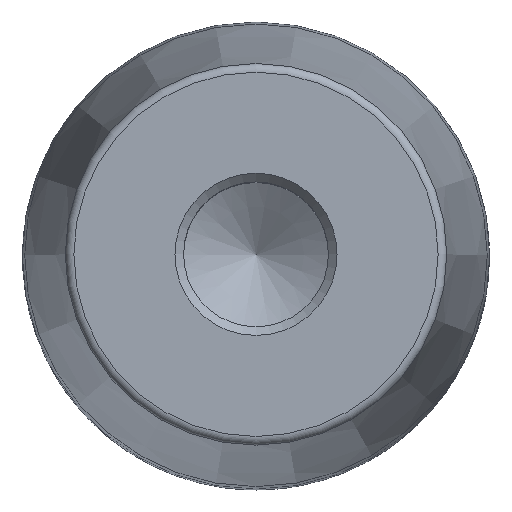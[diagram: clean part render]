
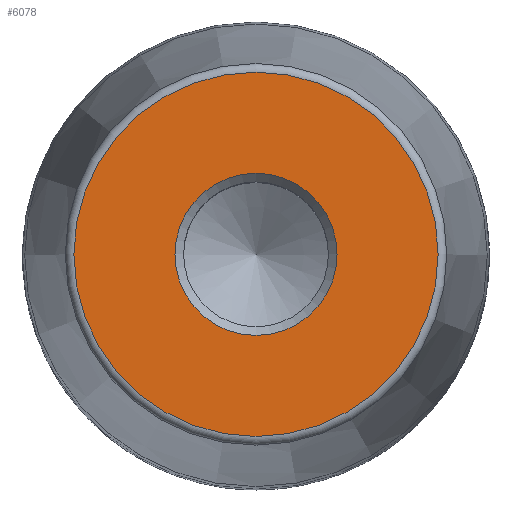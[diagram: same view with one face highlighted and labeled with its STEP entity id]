
A CAD part, top view. The second image highlights one B-rep face of the part: STEP entity #6078.
In plain terms, the highlighted planar face has unit normal (0, 0, 1).
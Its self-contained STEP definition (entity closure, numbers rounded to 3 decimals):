
#1225=PLANE('',#6802);
#1233=FACE_BOUND('',#1963,.T.);
#1595=FACE_OUTER_BOUND('',#1962,.T.);
#1962=EDGE_LOOP('',(#5698));
#1963=EDGE_LOOP('',(#5699));
#2329=CIRCLE('',#6799,4.688);
#2331=CIRCLE('',#6803,10.534);
#2908=VERTEX_POINT('',#13894);
#2910=VERTEX_POINT('',#13900);
#3841=EDGE_CURVE('',#2908,#2908,#2329,.T.);
#3843=EDGE_CURVE('',#2910,#2910,#2331,.T.);
#5698=ORIENTED_EDGE('',*,*,#3843,.F.);
#5699=ORIENTED_EDGE('',*,*,#3841,.F.);
#6078=ADVANCED_FACE('',(#1595,#1233),#1225,.F.);
#6799=AXIS2_PLACEMENT_3D('',#13895,#8525,#8526);
#6802=AXIS2_PLACEMENT_3D('',#13899,#8531,#8532);
#6803=AXIS2_PLACEMENT_3D('',#13901,#8533,#8534);
#8525=DIRECTION('center_axis',(0.,0.,1.));
#8526=DIRECTION('ref_axis',(-1.,0.,0.));
#8531=DIRECTION('center_axis',(0.,0.,-1.));
#8532=DIRECTION('ref_axis',(-1.,0.,0.));
#8533=DIRECTION('center_axis',(0.,0.,-1.));
#8534=DIRECTION('ref_axis',(1.,0.,0.));
#13894=CARTESIAN_POINT('',(4.688,0.,0.));
#13895=CARTESIAN_POINT('Origin',(0.,0.,0.));
#13899=CARTESIAN_POINT('Origin',(0.,0.,0.));
#13900=CARTESIAN_POINT('',(-10.534,0.,0.));
#13901=CARTESIAN_POINT('Origin',(0.,0.,0.));
